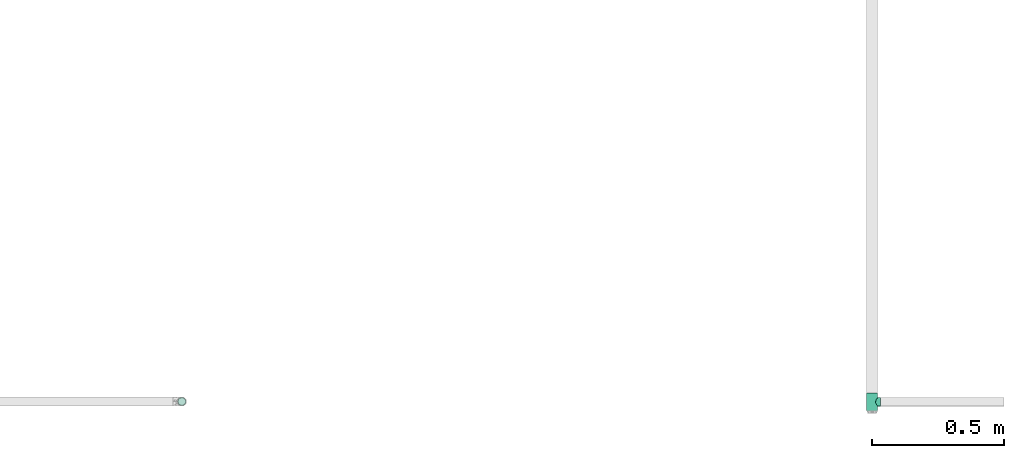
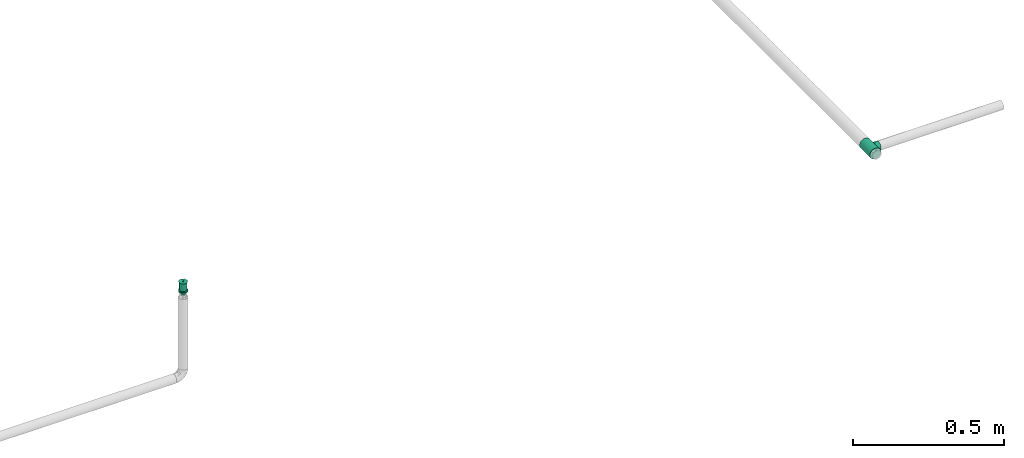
# One storey, part 38 of 63: 1 flow fitting, 1 flow terminal.
"""IFC2X3 building model written with IfcOpenShell, lengths in millimetres."""

from ifc_helpers import new_model, entity, si_unit, converted_unit, derived_unit, direction, frame, origin_with_axes, place, context, subcontext, project, spatial, open_shell, surface_model, source, transform, mapped, type_object, element, save


model = new_model("IFC2X3")

# Units and contexts
model_context = context("Model", 3, precision=0.01, world=frame((0.0, 4.29681676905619e-09, 0.0)), true_north=direction((4.01073788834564e-13, 1.0)))
plan_context = context("Plan", 3, precision=0.01, world=frame((0.0, 4.29681676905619e-09, 0.0)), true_north=direction((4.01073788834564e-13, 1.0)))
body_context = subcontext(model_context, "Body", "Model", "MODEL_VIEW")
ifc_project = project(units=[converted_unit("PLANEANGLEUNIT", "DEGREE", entity("IfcPositiveLengthMeasure", 0.0174532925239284), si_unit("PLANEANGLEUNIT", "RADIAN"), dimensions=[0, 0, 0, 0, 0, 0, 0]), si_unit("AREAUNIT", "SQUARE_METRE"), si_unit("LENGTHUNIT", "METRE", prefix="MILLI"), si_unit("MASSUNIT", "GRAM", prefix="KILO"), si_unit("POWERUNIT", "WATT"), si_unit("PRESSUREUNIT", "PASCAL", prefix="KILO"), si_unit("FORCEUNIT", "NEWTON", prefix="KILO"), si_unit("ELECTRICVOLTAGEUNIT", "VOLT"), si_unit("ELECTRICCURRENTUNIT", "AMPERE"), si_unit("THERMODYNAMICTEMPERATUREUNIT", "DEGREE_CELSIUS"), si_unit("TIMEUNIT", "SECOND"), si_unit("VOLUMEUNIT", "CUBIC_METRE"), derived_unit("LINEARVELOCITYUNIT", [(si_unit("LENGTHUNIT", "METRE"), 1), (si_unit("TIMEUNIT", "SECOND"), -1)]), derived_unit("VOLUMETRICFLOWRATEUNIT", [(si_unit("VOLUMEUNIT", "CUBIC_METRE"), 1), (si_unit("TIMEUNIT", "SECOND"), -1)]), derived_unit("THERMALTRANSMITTANCEUNIT", [(si_unit("POWERUNIT", "WATT"), 1), (si_unit("THERMODYNAMICTEMPERATUREUNIT", "KELVIN"), -1), (si_unit("AREAUNIT", "SQUARE_METRE"), -1)]), derived_unit("SOUNDPRESSUREUNIT", [(si_unit("PRESSUREUNIT", "PASCAL"), 1)])], contexts=[model_context, plan_context])

# Site, building, storey
site_placement = place(None, frame((0.0, -4.29681676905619e-09, 0.0), z_axis=(0.0, 0.0, 1.0), x_axis=(1.0, 0.0, 0.0)))
site = spatial("IfcSite", under=ifc_project, at=site_placement, CompositionType="ELEMENT")
building_placement = place(site_placement, frame((0.0, 4.29681676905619e-09, 0.0), z_axis=(0.0, 0.0, 1.0), x_axis=(1.0, 0.0, 0.0)))
building = spatial("IfcBuilding", under=site, at=building_placement, Name="mc-building", CompositionType="ELEMENT")
storey_placement = place(building_placement, frame((0.0, 0.0, 207370.0), z_axis=(0.0, 0.0, 1.0), x_axis=(1.0, 0.0, 0.0)))
storey = spatial("IfcBuildingStorey", under=building, at=storey_placement, Name="Nivå E", CompositionType="ELEMENT", Elevation=207370.0)

# Flow fitting
pipe_fitting_type = type_object("IfcPipeFittingType", Name="magi_pipe_fe_tee_centric_90_NOR", PredefinedType="JUNCTION")
shared_shape_1 = source(origin_with_axes(), body_context, "Body", "SurfaceModel", [
    surface_model("IfcShellBasedSurfaceModel", [(-33.8, 0.0, -21.2), (-33.8, -5.48696, -20.47763), (-33.8, 5.48696, -20.47763), (-33.8, 10.6, -18.35974), (-33.8, 14.99066, -14.99066), (-33.8, -20.47763, 5.48696), (-33.8, 18.35974, -10.6), (-33.8, 10.6, 18.35974), (-33.8, -14.99066, -14.99066), (-33.8, -18.35974, -10.6), (-33.8, -10.6, -18.35974), (-33.8, -20.47763, -5.48696), (-33.8, -21.2, 0.0), (-33.8, 18.35974, 10.6), (-33.8, 20.47763, -5.48696), (-33.8, 20.47763, 5.48696), (-33.8, 21.2, 0.0), (-33.8, 14.99066, 14.99066), (-33.8, 5.48696, 20.47763), (-33.8, 0.0, 21.2), (-33.8, -18.35974, 10.6), (-33.8, -14.99066, 14.99066), (-33.8, -10.6, 18.35974), (-33.8, -5.48696, 20.47763), (33.8, 5.48696, -20.47763), (33.8, -5.48696, -20.47763), (33.8, 0.0, -21.2), (33.8, 14.99066, -14.99066), (33.8, 10.6, -18.35974), (33.8, 18.35974, -10.6), (33.8, 20.47763, -5.48696), (33.8, -21.2, 0.0), (33.8, -10.6, -18.35974), (33.8, -18.35974, -10.6), (33.8, -14.99066, -14.99066), (33.8, -20.47763, -5.48696), (33.8, -20.47763, 5.48696), (33.8, 21.2, 0.0), (33.8, 20.47763, 5.48696), (33.8, 18.35974, 10.6), (33.8, 10.6, 18.35974), (33.8, 14.99066, 14.99066), (33.8, 0.0, 21.2), (33.8, 5.48696, 20.47763), (33.8, -14.99066, 14.99066), (33.8, -18.35974, 10.6), (33.8, -10.6, 18.35974), (33.8, -5.48696, 20.47763), (16.9, -21.2, 0.0), (15.78624, -20.32327, 6.03364), (12.81343, -18.11115, 11.01935), (8.52479, -15.37862, 14.59239), (3.07939, -13.16482, 16.61708), (-16.9, -21.2, 0.0), (-15.78686, -20.32375, 6.032), (-8.52604, -15.37932, 14.59166), (-3.0848, -13.16609, 16.61608), (-12.81602, -18.11299, 11.01634), (3.07939, -13.16482, -16.61708), (12.81343, -18.11115, -11.01935), (8.52479, -15.37862, -14.59239), (15.78624, -20.32327, -6.03364), (-3.0848, -13.16609, -16.61608), (-8.52604, -15.37932, -14.59166), (-12.81602, -18.11299, -11.01634), (-15.78686, -20.32375, -6.032), (4.37404, -31.8, -16.32415), (-16.9, -31.8, 0.0), (0.0, -31.8, -16.9), (14.63583, -31.8, -8.45), (8.45, -31.8, -14.63583), (16.32415, -31.8, -4.37404), (11.9501, -31.8, -11.9501), (-11.9501, -31.8, -11.9501), (-8.45, -31.8, -14.63583), (-4.37404, -31.8, -16.32415), (-14.63583, -31.8, -8.45), (-16.32415, -31.8, -4.37404), (16.9, -31.8, 0.0), (8.45, -31.8, 14.63583), (16.32415, -31.8, 4.37404), (14.63583, -31.8, 8.45), (-8.45, -31.8, 14.63583), (11.9501, -31.8, 11.9501), (4.37404, -31.8, 16.32415), (-16.32415, -31.8, 4.37404), (-11.9501, -31.8, 11.9501), (-14.63583, -31.8, 8.45), (0.0, -31.8, 16.9), (-4.37404, -31.8, 16.32415), (-16.34343, -20.76188, 3.016), (16.34312, -20.76163, 3.01682), (-0.00271, -13.16546, 16.61658), (16.34312, -20.76163, -3.01682), (-0.00271, -13.16546, -16.61658), (-16.34343, -20.76188, -3.016)], [open_shell([[[0, 1, 2]], [[3, 2, 4]], [[5, 2, 1]], [[4, 2, 6]], [[6, 2, 7]], [[8, 9, 10]], [[1, 10, 9]], [[9, 11, 1]], [[12, 1, 11]], [[5, 1, 12]], [[13, 14, 6]], [[13, 15, 16]], [[6, 7, 13]], [[5, 7, 2]], [[17, 13, 7]], [[18, 7, 19]], [[20, 21, 5]], [[22, 5, 21]], [[23, 19, 22]], [[7, 5, 22]], [[22, 19, 7]], [[16, 14, 13]], [[24, 25, 26]], [[27, 24, 28]], [[29, 30, 24]], [[29, 24, 27]], [[31, 24, 30]], [[32, 33, 34]], [[33, 32, 25]], [[33, 31, 35]], [[31, 33, 25]], [[25, 24, 31]], [[30, 36, 31]], [[37, 38, 39]], [[37, 39, 40]], [[37, 40, 36]], [[40, 39, 41]], [[42, 40, 43]], [[36, 44, 45]], [[44, 36, 46]], [[46, 42, 47]], [[46, 36, 40]], [[40, 42, 46]], [[37, 36, 30]], [[31, 36, 48]], [[49, 48, 36]], [[36, 45, 49]], [[45, 44, 50]], [[51, 50, 44]], [[52, 51, 44]], [[44, 46, 52]], [[45, 50, 49]], [[53, 54, 5]], [[5, 12, 53]], [[54, 20, 5]], [[55, 56, 21]], [[20, 57, 21]], [[57, 20, 54]], [[21, 57, 55]], [[56, 22, 21]], [[52, 22, 56]], [[19, 47, 42]], [[23, 46, 47]], [[18, 42, 43]], [[39, 38, 15]], [[17, 40, 41]], [[13, 41, 39]], [[43, 40, 7]], [[16, 38, 37]], [[22, 46, 23]], [[23, 47, 19]], [[18, 19, 42]], [[43, 7, 18]], [[7, 40, 17]], [[13, 17, 41]], [[15, 13, 39]], [[38, 16, 15]], [[46, 22, 52]], [[6, 30, 29]], [[14, 37, 30]], [[4, 29, 27]], [[26, 25, 1]], [[2, 28, 24]], [[0, 24, 26]], [[27, 28, 3]], [[10, 25, 32]], [[16, 37, 14]], [[14, 30, 6]], [[4, 6, 29]], [[27, 3, 4]], [[3, 28, 2]], [[0, 2, 24]], [[1, 0, 26]], [[25, 10, 1]], [[32, 58, 10]], [[34, 59, 60]], [[59, 34, 33]], [[60, 58, 34]], [[34, 58, 32]], [[35, 31, 48]], [[35, 61, 33]], [[61, 35, 48]], [[33, 61, 59]], [[62, 63, 8]], [[8, 64, 9]], [[64, 8, 63]], [[62, 8, 10]], [[65, 53, 11]], [[65, 11, 9]], [[11, 53, 12]], [[65, 9, 64]], [[58, 62, 10]], [[66, 67, 68]], [[69, 66, 70]], [[69, 71, 66]], [[69, 70, 72]], [[67, 66, 71]], [[68, 73, 74]], [[74, 75, 68]], [[76, 67, 77]], [[73, 68, 76]], [[67, 76, 68]], [[71, 78, 67]], [[79, 78, 80]], [[79, 80, 81]], [[82, 67, 79]], [[79, 81, 83]], [[82, 79, 84]], [[85, 86, 87]], [[86, 85, 82]], [[82, 88, 89]], [[85, 67, 82]], [[84, 88, 82]], [[79, 67, 78]], [[85, 90, 67]], [[57, 87, 86]], [[85, 87, 54]], [[86, 82, 55]], [[85, 54, 90]], [[90, 53, 67]], [[54, 87, 57]], [[91, 49, 80]], [[55, 89, 56]], [[55, 57, 86]], [[88, 52, 92]], [[55, 82, 89]], [[52, 88, 84]], [[79, 51, 84]], [[50, 83, 81]], [[83, 51, 79]], [[81, 80, 49]], [[83, 50, 51]], [[51, 52, 84]], [[78, 91, 80]], [[49, 50, 81]], [[91, 78, 48]], [[88, 56, 89]], [[92, 56, 88]], [[71, 93, 78]], [[59, 69, 72]], [[71, 69, 61]], [[72, 70, 60]], [[93, 48, 78]], [[61, 69, 59]], [[60, 66, 58]], [[60, 59, 72]], [[68, 62, 94]], [[60, 70, 66]], [[95, 67, 53]], [[95, 65, 77]], [[71, 61, 93]], [[75, 62, 68]], [[65, 76, 77]], [[73, 76, 64]], [[68, 58, 66]], [[75, 63, 62]], [[63, 75, 74]], [[74, 73, 63]], [[63, 73, 64]], [[64, 76, 65]], [[67, 95, 77]], [[94, 58, 68]]])]),
])
flow_fitting_placement = place(storey_placement, frame((728641.29045, 434694.40604, 2700.0), z_axis=(0.0, 0.0, -1.0), x_axis=(0.0, -1.0, 0.0)))
element("IfcFlowFitting", 1, at=flow_fitting_placement, inside=storey, type_object=pipe_fitting_type, Name="magi_pipe_fe_tee_centric_90_NOR", context=body_context, shape_type="MappedRepresentation", body=[
    mapped(shared_shape_1, transform((0.0, 0.0, 0.0), scale=1.0)),
])

# Flow terminal
fire_suppression_terminal_type = type_object("IfcFireSuppressionTerminalType", Name="68DGR-STD-STÅENDE", PredefinedType="NOTDEFINED")
shared_shape_2 = source(origin_with_axes(), body_context, "Body", "SurfaceModel", [
    surface_model("IfcShellBasedSurfaceModel", [(3.36465, -12.55704, 51.0), (6.5, -11.25833, 51.0), (9.19239, -9.19239, 51.0), (12.55704, -3.36465, 51.0), (-11.25833, -6.5, 51.0), (11.25833, -6.5, 51.0), (-13.0, 0.0, 51.0), (0.0, -13.0, 51.0), (-6.5, -11.25833, 51.0), (-3.36465, -12.55704, 51.0), (-9.19239, -9.19239, 51.0), (-12.55704, -3.36465, 51.0), (13.0, 0.0, 51.0), (12.55704, 3.36465, 51.0), (11.25833, 6.5, 51.0), (9.19239, 9.19239, 51.0), (6.5, 11.25833, 51.0), (3.36465, 12.55704, 51.0), (0.0, 13.0, 51.0), (-3.36465, 12.55704, 51.0), (-12.55704, 3.36465, 51.0), (-9.19239, 9.19239, 51.0), (-11.25833, 6.5, 51.0), (-6.5, 11.25833, 51.0), (0.0, 13.0, 21.14766), (3.36465, 12.55704, 21.14766), (6.5, 11.25833, 21.14766), (-3.36465, 12.55704, 21.14766), (9.19239, 9.19239, 21.14766), (11.25833, 6.5, 21.14766), (12.55704, 3.36465, 21.14766), (-12.55704, 3.36465, 21.14766), (-11.25833, -6.5, 21.14766), (-9.19239, 9.19239, 21.14766), (-6.5, 11.25833, 21.14766), (-11.25833, 6.5, 21.14766), (-13.0, 0.0, 21.14766), (12.55704, -3.36465, 21.14766), (9.19239, -9.19239, 21.14766), (11.25833, -6.5, 21.14766), (6.5, -11.25833, 21.14766), (3.36465, -12.55704, 21.14766), (-6.5, -11.25833, 21.14766), (-9.19239, -9.19239, 21.14766), (-12.55704, -3.36465, 21.14766), (0.0, -13.0, 21.14766), (-3.36465, -12.55704, 21.14766), (13.0, 0.0, 21.14766), (7.24444, -1.94114, 0.1), (1.94114, -7.24444, 0.1), (3.75, -6.49519, 0.1), (5.3033, -5.3033, 0.1), (-5.3033, -5.3033, 0.1), (6.49519, -3.75, 0.1), (5.3033, 5.3033, 0.1), (0.0, -7.5, 0.1), (-3.75, -6.49519, 0.1), (-1.94114, -7.24444, 0.1), (-7.24444, -1.94114, 0.1), (-6.49519, -3.75, 0.1), (-7.24444, 1.94114, 0.1), (7.5, 0.0, 0.1), (6.49519, 3.75, 0.1), (-6.49519, 3.75, 0.1), (1.94114, 7.24444, 0.1), (0.0, 7.5, 0.1), (3.75, 6.49519, 0.1), (-7.5, 0.0, 0.1), (-5.3033, 5.3033, 0.1), (-1.94114, 7.24444, 0.1), (-3.75, 6.49519, 0.1), (7.24444, 1.94114, 0.1), (1.94114, 7.24444, -0.1), (-6.49519, 3.75, -0.1), (0.0, 7.5, -0.1), (5.3033, 5.3033, -0.1), (3.75, 6.49519, -0.1), (6.49519, 3.75, -0.1), (7.24444, 1.94114, -0.1), (-1.94114, 7.24444, -0.1), (-5.3033, 5.3033, -0.1), (-3.75, 6.49519, -0.1), (-7.24444, 1.94114, -0.1), (-7.24444, -1.94114, -0.1), (-7.5, 0.0, -0.1), (7.5, 0.0, -0.1), (7.24444, -1.94114, -0.1), (-5.3033, -5.3033, -0.1), (1.94114, -7.24444, -0.1), (6.49519, -3.75, -0.1), (5.3033, -5.3033, -0.1), (3.75, -6.49519, -0.1), (-6.49519, -3.75, -0.1), (-3.75, -6.49519, -0.1), (0.0, -7.5, -0.1), (-1.94114, -7.24444, -0.1), (0.0, -2.5, 51.0), (-2.5, 0.0, 51.0), (0.0, 2.5, 51.0), (2.5, 0.0, 51.0), (0.0, -16.0, 53.0), (11.31371, -11.31371, 53.0), (-11.31371, -11.31371, 53.0), (-16.0, 0.0, 53.0), (16.0, 0.0, 53.0), (11.31371, 11.31371, 53.0), (0.0, 16.0, 53.0), (-11.31371, 11.31371, 53.0), (1.25, -2.16506, 57.0), (0.0, -2.5, 57.0), (0.64705, -2.41481, 57.0), (2.41481, -0.64705, 57.0), (1.76777, -1.76777, 57.0), (-2.41481, -0.64705, 57.0), (-2.5, 0.0, 57.0), (2.16506, -1.25, 57.0), (-1.25, -2.16506, 57.0), (-0.64705, -2.41481, 57.0), (-1.76777, -1.76777, 57.0), (-2.16506, -1.25, 57.0), (2.5, 0.0, 57.0), (2.41481, 0.64705, 57.0), (2.16506, 1.25, 57.0), (1.76777, 1.76777, 57.0), (0.64705, 2.41481, 57.0), (1.25, 2.16506, 57.0), (-1.76777, 1.76777, 57.0), (0.0, 2.5, 57.0), (-2.16506, 1.25, 57.0), (-2.41481, 0.64705, 57.0), (-0.64705, 2.41481, 57.0), (-1.25, 2.16506, 57.0), (1.25, 2.16506, 51.0), (1.76777, 1.76777, 51.0), (1.15, 1.99186, 51.0), (0.59528, 2.22163, 51.0), (0.64705, 2.41481, 51.0), (0.0, 2.3, 51.0), (1.62635, 1.62635, 51.0), (2.41481, 0.64705, 51.0), (2.3, 0.0, 51.0), (2.22163, 0.59528, 51.0), (2.16506, 1.25, 51.0), (1.99186, 1.15, 51.0), (-0.59528, 2.22163, 51.0), (-0.64705, 2.41481, 51.0), (-1.15, 1.99186, 51.0), (-1.76777, 1.76777, 51.0), (-1.25, 2.16506, 51.0), (-1.62635, 1.62635, 51.0), (-1.99186, 1.15, 51.0), (-2.16506, 1.25, 51.0), (-2.22163, 0.59528, 51.0), (-2.41481, 0.64705, 51.0), (-2.3, 0.0, 51.0), (2.41481, -0.64705, 51.0), (2.22163, -0.59528, 51.0), (1.99186, -1.15, 51.0), (2.16506, -1.25, 51.0), (1.62635, -1.62635, 51.0), (1.76777, -1.76777, 51.0), (1.25, -2.16506, 51.0), (1.15, -1.99186, 51.0), (0.59528, -2.22163, 51.0), (0.64705, -2.41481, 51.0), (0.0, -2.3, 51.0), (-2.16506, -1.25, 51.0), (-1.99186, -1.15, 51.0), (-1.76777, -1.76777, 51.0), (-1.62635, -1.62635, 51.0), (-2.41481, -0.64705, 51.0), (-2.22163, -0.59528, 51.0), (-0.59528, -2.22163, 51.0), (-0.64705, -2.41481, 51.0), (-1.15, -1.99186, 51.0), (-1.25, -2.16506, 51.0), (1.62635, -1.62635, 56.8), (1.15, -1.99186, 56.8), (0.59528, -2.22163, 56.8), (0.0, -2.3, 56.8), (2.22163, 0.59528, 56.8), (1.99186, -1.15, 56.8), (2.22163, -0.59528, 56.8), (-0.59528, -2.22163, 56.8), (-1.15, -1.99186, 56.8), (-1.62635, -1.62635, 56.8), (-1.99186, -1.15, 56.8), (-2.22163, -0.59528, 56.8), (-1.99186, 1.15, 56.8), (2.3, 0.0, 56.8), (1.62635, 1.62635, 56.8), (1.99186, 1.15, 56.8), (1.15, 1.99186, 56.8), (0.0, 2.3, 56.8), (0.59528, 2.22163, 56.8), (-2.22163, 0.59528, 56.8), (-2.3, 0.0, 56.8), (-1.15, 1.99186, 56.8), (-0.59528, 2.22163, 56.8), (-1.62635, 1.62635, 56.8), (4.1411, -15.45481, 19.0), (8.0, -13.85641, 19.0), (11.31371, -11.31371, 19.0), (-8.0, -13.85641, 19.0), (15.45481, -4.1411, 19.0), (16.0, 0.0, 19.0), (13.85641, -8.0, 19.0), (0.0, -16.0, 19.0), (-4.1411, -15.45481, 19.0), (-13.85641, -8.0, 19.0), (-11.31371, -11.31371, 19.0), (-15.45481, -4.1411, 19.0), (15.45481, 4.1411, 19.0), (13.85641, 8.0, 19.0), (11.31371, 11.31371, 19.0), (-4.1411, 15.45481, 19.0), (8.0, 13.85641, 19.0), (4.1411, 15.45481, 19.0), (0.0, 16.0, 19.0), (-13.85641, 8.0, 19.0), (-15.45481, 4.1411, 19.0), (-16.0, 0.0, 19.0), (-11.31371, 11.31371, 19.0), (-8.0, 13.85641, 19.0), (0.0, 16.0, 13.0), (4.1411, 15.45481, 13.0), (8.0, 13.85641, 13.0), (-4.1411, 15.45481, 13.0), (11.31371, 11.31371, 13.0), (13.85641, 8.0, 13.0), (15.45481, 4.1411, 13.0), (-15.45481, -4.1411, 13.0), (-11.31371, 11.31371, 13.0), (-8.0, 13.85641, 13.0), (-13.85641, 8.0, 13.0), (-15.45481, 4.1411, 13.0), (-16.0, 0.0, 13.0), (4.1411, -15.45481, 13.0), (16.0, 0.0, 13.0), (15.45481, -4.1411, 13.0), (13.85641, -8.0, 13.0), (11.31371, -11.31371, 13.0), (8.0, -13.85641, 13.0), (-8.0, -13.85641, 13.0), (-13.85641, -8.0, 13.0), (-11.31371, -11.31371, 13.0), (0.0, -16.0, 13.0), (-4.1411, -15.45481, 13.0), (7.24444, -1.94114, 13.0), (1.94114, -7.24444, 13.0), (3.75, -6.49519, 13.0), (5.3033, -5.3033, 13.0), (-5.3033, -5.3033, 13.0), (6.49519, -3.75, 13.0), (5.3033, 5.3033, 13.0), (0.0, -7.5, 13.0), (-3.75, -6.49519, 13.0), (-1.94114, -7.24444, 13.0), (-7.24444, -1.94114, 13.0), (-6.49519, -3.75, 13.0), (-7.24444, 1.94114, 13.0), (7.5, 0.0, 13.0), (6.49519, 3.75, 13.0), (-6.49519, 3.75, 13.0), (1.94114, 7.24444, 13.0), (0.0, 7.5, 13.0), (3.75, 6.49519, 13.0), (-7.5, 0.0, 13.0), (-5.3033, 5.3033, 13.0), (-1.94114, 7.24444, 13.0), (-3.75, 6.49519, 13.0), (7.24444, 1.94114, 13.0), (3.75, 6.49519, 0.0), (5.3033, 5.3033, 0.0), (3.65, 6.32199, 0.0), (1.88938, 7.05126, 0.0), (0.0, 7.3, 0.0), (1.94114, 7.24444, 0.0), (0.0, 7.5, 0.0), (5.16188, 5.16188, 0.0), (7.24444, 1.94114, 0.0), (7.3, 0.0, 0.0), (7.05126, 1.88938, 0.0), (7.5, 0.0, 0.0), (6.49519, 3.75, 0.0), (6.32199, 3.65, 0.0), (-1.88938, 7.05126, 0.0), (-1.94114, 7.24444, 0.0), (-3.65, 6.32199, 0.0), (-5.3033, 5.3033, 0.0), (-3.75, 6.49519, 0.0), (-5.16188, 5.16188, 0.0), (-6.32199, 3.65, 0.0), (-6.49519, 3.75, 0.0), (-7.05126, 1.88938, 0.0), (-7.24444, 1.94114, 0.0), (-7.3, 0.0, 0.0), (-7.5, 0.0, 0.0), (7.24444, -1.94114, 0.0), (7.05126, -1.88938, 0.0), (6.32199, -3.65, 0.0), (6.49519, -3.75, 0.0), (5.16188, -5.16188, 0.0), (5.3033, -5.3033, 0.0), (3.75, -6.49519, 0.0), (3.65, -6.32199, 0.0), (1.88938, -7.05126, 0.0), (1.94114, -7.24444, 0.0), (0.0, -7.3, 0.0), (0.0, -7.5, 0.0), (-6.49519, -3.75, 0.0), (-6.32199, -3.65, 0.0), (-5.3033, -5.3033, 0.0), (-5.16188, -5.16188, 0.0), (-7.24444, -1.94114, 0.0), (-7.05126, -1.88938, 0.0), (-1.88938, -7.05126, 0.0), (-1.94114, -7.24444, 0.0), (-3.65, -6.32199, 0.0), (-3.75, -6.49519, 0.0), (1.88938, -7.05126, 12.8), (0.0, -7.3, 12.8), (3.65, -6.32199, 12.8), (5.16188, -5.16188, 12.8), (6.32199, -3.65, 12.8), (7.05126, 1.88938, 12.8), (7.05126, -1.88938, 12.8), (-5.16188, -5.16188, 12.8), (-1.88938, -7.05126, 12.8), (-3.65, -6.32199, 12.8), (-6.32199, -3.65, 12.8), (-7.05126, -1.88938, 12.8), (0.0, 7.3, 12.8), (7.3, 0.0, 12.8), (6.32199, 3.65, 12.8), (5.16188, 5.16188, 12.8), (3.65, 6.32199, 12.8), (1.88938, 7.05126, 12.8), (-6.32199, 3.65, 12.8), (-7.05126, 1.88938, 12.8), (-7.3, 0.0, 12.8), (-3.65, 6.32199, 12.8), (-1.88938, 7.05126, 12.8), (-5.16188, 5.16188, 12.8)], [open_shell([[[0, 1, 2]], [[0, 2, 3]], [[0, 3, 4]], [[3, 2, 5]], [[6, 4, 3]], [[7, 8, 9]], [[7, 0, 8]], [[8, 4, 10]], [[0, 4, 8]], [[4, 6, 11]], [[6, 3, 12]], [[13, 14, 15]], [[6, 13, 15]], [[16, 17, 18]], [[15, 16, 19]], [[18, 19, 16]], [[20, 21, 22]], [[20, 6, 15]], [[21, 19, 23]], [[19, 21, 20]], [[15, 19, 20]], [[13, 6, 12]], [[24, 25, 26]], [[27, 24, 26]], [[28, 29, 30]], [[26, 28, 31]], [[28, 32, 31]], [[27, 33, 34]], [[33, 27, 31]], [[33, 31, 35]], [[27, 26, 31]], [[31, 32, 36]], [[32, 28, 30]], [[32, 30, 37]], [[38, 37, 39]], [[38, 40, 41]], [[38, 41, 37]], [[32, 37, 41]], [[32, 42, 43]], [[44, 36, 32]], [[42, 45, 46]], [[42, 32, 41]], [[45, 42, 41]], [[30, 47, 37]], [[4, 32, 43]], [[8, 42, 46]], [[43, 42, 10]], [[9, 46, 45]], [[36, 11, 6]], [[11, 36, 44]], [[11, 44, 4]], [[44, 32, 4]], [[43, 10, 4]], [[8, 10, 42]], [[46, 9, 8]], [[45, 7, 9]], [[0, 41, 40]], [[38, 1, 40]], [[5, 39, 37]], [[38, 39, 2]], [[3, 37, 47]], [[41, 0, 7]], [[40, 1, 0]], [[38, 2, 1]], [[39, 5, 2]], [[3, 5, 37]], [[47, 12, 3]], [[41, 7, 45]], [[30, 13, 47]], [[29, 14, 30]], [[25, 24, 17]], [[15, 29, 28]], [[30, 14, 13]], [[13, 12, 47]], [[16, 26, 17]], [[16, 15, 28]], [[26, 25, 17]], [[15, 14, 29]], [[28, 26, 16]], [[24, 18, 17]], [[19, 27, 34]], [[33, 23, 34]], [[22, 35, 31]], [[33, 35, 21]], [[20, 31, 36]], [[27, 19, 18]], [[34, 23, 19]], [[33, 21, 23]], [[35, 22, 21]], [[20, 22, 31]], [[36, 6, 20]], [[27, 18, 24]], [[48, 49, 50]], [[48, 50, 51]], [[49, 48, 52]], [[48, 51, 53]], [[54, 52, 48]], [[55, 56, 57]], [[56, 55, 52]], [[52, 58, 59]], [[52, 55, 49]], [[52, 60, 58]], [[54, 48, 61]], [[62, 54, 61]], [[54, 63, 52]], [[64, 65, 54]], [[64, 54, 66]], [[63, 54, 65]], [[63, 60, 52]], [[67, 58, 60]], [[68, 69, 70]], [[69, 68, 63]], [[69, 63, 65]], [[71, 62, 61]], [[72, 73, 74]], [[75, 72, 76]], [[75, 77, 78]], [[72, 75, 73]], [[78, 73, 75]], [[79, 80, 81]], [[80, 79, 73]], [[74, 73, 79]], [[78, 82, 73]], [[82, 83, 84]], [[82, 78, 85]], [[86, 87, 85]], [[88, 86, 89]], [[90, 91, 88]], [[90, 88, 89]], [[87, 86, 88]], [[83, 87, 92]], [[83, 85, 87]], [[93, 94, 95]], [[94, 93, 87]], [[88, 94, 87]], [[85, 83, 82]], [[83, 58, 84]], [[92, 59, 83]], [[56, 87, 93]], [[92, 87, 52]], [[57, 93, 95]], [[83, 59, 58]], [[58, 67, 84]], [[57, 56, 93]], [[52, 87, 56]], [[52, 59, 92]], [[55, 57, 95]], [[95, 94, 55]], [[88, 49, 94]], [[91, 50, 88]], [[53, 90, 89]], [[91, 90, 51]], [[48, 89, 86]], [[91, 51, 50]], [[50, 49, 88]], [[61, 48, 86]], [[53, 89, 48]], [[53, 51, 90]], [[85, 61, 86]], [[94, 49, 55]], [[78, 71, 85]], [[77, 62, 78]], [[66, 75, 76]], [[77, 75, 54]], [[64, 76, 72]], [[78, 62, 71]], [[71, 61, 85]], [[64, 66, 76]], [[54, 75, 66]], [[54, 62, 77]], [[65, 64, 72]], [[72, 74, 65]], [[79, 69, 74]], [[81, 70, 79]], [[63, 80, 73]], [[81, 80, 68]], [[60, 73, 82]], [[81, 68, 70]], [[70, 69, 79]], [[67, 60, 82]], [[63, 73, 60]], [[63, 68, 80]], [[84, 67, 82]], [[74, 69, 65]], [[96, 97, 98]], [[98, 99, 96]], [[100, 101, 102]], [[103, 102, 101]], [[101, 104, 103]], [[104, 105, 106]], [[107, 103, 106]], [[106, 103, 104]], [[99, 98, 105]], [[105, 104, 99]], [[98, 106, 105]], [[98, 107, 106]], [[107, 98, 97]], [[103, 107, 97]], [[97, 96, 102]], [[102, 103, 97]], [[96, 100, 102]], [[96, 101, 100]], [[101, 96, 99]], [[104, 101, 99]], [[108, 109, 110]], [[111, 108, 112]], [[113, 108, 114]], [[111, 112, 115]], [[108, 111, 114]], [[109, 116, 117]], [[116, 109, 118]], [[118, 113, 119]], [[118, 109, 108]], [[108, 113, 118]], [[111, 120, 114]], [[121, 122, 123]], [[114, 121, 123]], [[114, 123, 124]], [[124, 123, 125]], [[126, 124, 127]], [[124, 128, 129]], [[129, 114, 124]], [[126, 130, 131]], [[128, 124, 126]], [[130, 126, 127]], [[121, 114, 120]], [[132, 133, 134]], [[132, 134, 135]], [[136, 135, 137]], [[135, 136, 132]], [[136, 137, 98]], [[134, 133, 138]], [[139, 140, 141]], [[140, 139, 99]], [[139, 141, 142]], [[138, 142, 143]], [[142, 138, 133]], [[143, 142, 141]], [[98, 144, 145]], [[98, 137, 144]], [[145, 144, 146]], [[147, 148, 149]], [[146, 148, 145]], [[149, 148, 146]], [[150, 151, 147]], [[151, 150, 152]], [[150, 147, 149]], [[153, 152, 154]], [[152, 153, 151]], [[153, 154, 97]], [[99, 155, 156]], [[156, 155, 157]], [[157, 158, 159]], [[158, 157, 155]], [[159, 158, 160]], [[160, 161, 162]], [[162, 161, 163]], [[163, 164, 165]], [[164, 163, 161]], [[165, 164, 96]], [[162, 159, 160]], [[166, 167, 168]], [[168, 167, 169]], [[167, 166, 170]], [[97, 171, 170]], [[170, 171, 167]], [[97, 154, 171]], [[172, 96, 173]], [[172, 173, 174]], [[169, 175, 168]], [[175, 169, 174]], [[175, 174, 173]], [[165, 96, 172]], [[156, 140, 99]], [[170, 113, 97]], [[166, 119, 170]], [[116, 168, 175]], [[166, 168, 118]], [[117, 175, 173]], [[170, 119, 113]], [[113, 114, 97]], [[117, 116, 175]], [[118, 168, 116]], [[118, 119, 166]], [[109, 117, 173]], [[173, 96, 109]], [[164, 110, 96]], [[161, 108, 164]], [[115, 160, 158]], [[161, 160, 112]], [[111, 158, 155]], [[161, 112, 108]], [[108, 110, 164]], [[120, 111, 155]], [[115, 158, 111]], [[115, 112, 160]], [[99, 120, 155]], [[96, 110, 109]], [[139, 121, 99]], [[142, 122, 139]], [[125, 133, 132]], [[142, 133, 123]], [[124, 132, 136]], [[139, 122, 121]], [[121, 120, 99]], [[124, 125, 132]], [[123, 133, 125]], [[123, 122, 142]], [[127, 124, 136]], [[136, 98, 127]], [[145, 130, 98]], [[148, 131, 145]], [[128, 147, 151]], [[148, 147, 126]], [[129, 151, 153]], [[148, 126, 131]], [[131, 130, 145]], [[114, 129, 153]], [[128, 151, 129]], [[128, 126, 147]], [[97, 114, 153]], [[98, 130, 127]], [[176, 177, 178]], [[176, 178, 179]], [[180, 176, 179]], [[181, 176, 182]], [[180, 182, 176]], [[183, 184, 179]], [[185, 179, 184]], [[186, 187, 185]], [[185, 187, 188]], [[179, 185, 188]], [[189, 182, 180]], [[190, 191, 180]], [[192, 190, 180]], [[193, 194, 192]], [[180, 193, 192]], [[188, 193, 180]], [[195, 188, 196]], [[196, 188, 187]], [[197, 198, 199]], [[188, 199, 198]], [[188, 198, 193]], [[180, 179, 188]], [[154, 187, 171]], [[171, 186, 167]], [[174, 169, 184]], [[185, 169, 167]], [[172, 174, 183]], [[187, 186, 171]], [[154, 196, 187]], [[174, 184, 183]], [[184, 169, 185]], [[167, 186, 185]], [[172, 183, 179]], [[179, 165, 172]], [[165, 178, 163]], [[163, 177, 162]], [[157, 159, 181]], [[176, 159, 162]], [[156, 157, 182]], [[177, 176, 162]], [[163, 178, 177]], [[156, 182, 189]], [[182, 157, 181]], [[159, 176, 181]], [[156, 189, 140]], [[179, 178, 165]], [[140, 180, 141]], [[141, 191, 143]], [[134, 138, 192]], [[190, 138, 143]], [[135, 134, 194]], [[180, 191, 141]], [[140, 189, 180]], [[134, 192, 194]], [[192, 138, 190]], [[143, 191, 190]], [[135, 194, 193]], [[193, 137, 135]], [[137, 198, 144]], [[144, 197, 146]], [[150, 149, 188]], [[199, 149, 146]], [[152, 150, 195]], [[197, 199, 146]], [[144, 198, 197]], [[152, 195, 196]], [[195, 150, 188]], [[149, 199, 188]], [[152, 196, 154]], [[193, 198, 137]], [[200, 201, 202]], [[203, 200, 202]], [[204, 205, 202]], [[204, 202, 206]], [[203, 202, 205]], [[207, 203, 208]], [[207, 200, 203]], [[203, 209, 210]], [[209, 203, 211]], [[205, 211, 203]], [[205, 212, 211]], [[212, 213, 214]], [[215, 212, 214]], [[216, 217, 218]], [[214, 216, 215]], [[218, 215, 216]], [[211, 219, 220]], [[221, 211, 220]], [[222, 215, 223]], [[215, 222, 219]], [[219, 211, 215]], [[211, 212, 215]], [[224, 225, 226]], [[227, 224, 226]], [[228, 229, 230]], [[227, 226, 228]], [[227, 228, 231]], [[227, 232, 233]], [[232, 227, 234]], [[234, 231, 235]], [[231, 234, 227]], [[235, 231, 236]], [[228, 230, 231]], [[237, 238, 239]], [[237, 239, 240]], [[241, 242, 237]], [[241, 237, 240]], [[238, 237, 243]], [[244, 243, 245]], [[243, 244, 231]], [[243, 246, 247]], [[243, 231, 238]], [[237, 246, 243]], [[238, 231, 230]], [[231, 211, 236]], [[244, 209, 231]], [[203, 245, 243]], [[244, 245, 210]], [[208, 243, 247]], [[231, 209, 211]], [[211, 221, 236]], [[208, 203, 243]], [[210, 245, 203]], [[210, 209, 244]], [[207, 208, 247]], [[247, 246, 207]], [[237, 200, 246]], [[242, 201, 237]], [[206, 241, 240]], [[242, 241, 202]], [[204, 240, 239]], [[242, 202, 201]], [[201, 200, 237]], [[205, 204, 239]], [[206, 240, 204]], [[206, 202, 241]], [[238, 205, 239]], [[246, 200, 207]], [[230, 212, 238]], [[229, 213, 230]], [[216, 228, 226]], [[229, 228, 214]], [[217, 226, 225]], [[230, 213, 212]], [[212, 205, 238]], [[217, 216, 226]], [[214, 228, 216]], [[214, 213, 229]], [[218, 217, 225]], [[225, 224, 218]], [[227, 215, 224]], [[233, 223, 227]], [[219, 232, 234]], [[233, 232, 222]], [[220, 234, 235]], [[233, 222, 223]], [[223, 215, 227]], [[221, 220, 235]], [[219, 234, 220]], [[219, 222, 232]], [[236, 221, 235]], [[224, 215, 218]], [[248, 249, 250]], [[248, 250, 251]], [[249, 248, 252]], [[248, 251, 253]], [[254, 252, 248]], [[255, 256, 257]], [[256, 255, 252]], [[252, 258, 259]], [[252, 255, 249]], [[252, 260, 258]], [[254, 248, 261]], [[262, 254, 261]], [[254, 263, 252]], [[264, 265, 254]], [[264, 254, 266]], [[263, 254, 265]], [[263, 260, 252]], [[267, 258, 260]], [[268, 269, 270]], [[269, 268, 263]], [[269, 263, 265]], [[271, 262, 261]], [[272, 273, 274]], [[272, 274, 275]], [[276, 277, 275]], [[277, 276, 278]], [[275, 277, 272]], [[274, 273, 279]], [[280, 281, 282]], [[281, 280, 283]], [[280, 282, 284]], [[279, 284, 285]], [[284, 279, 273]], [[285, 284, 282]], [[278, 286, 287]], [[287, 286, 288]], [[289, 290, 291]], [[288, 290, 287]], [[288, 291, 290]], [[278, 276, 286]], [[292, 293, 289]], [[293, 292, 294]], [[292, 289, 291]], [[295, 294, 296]], [[294, 295, 293]], [[295, 296, 297]], [[283, 298, 299]], [[299, 298, 300]], [[300, 301, 302]], [[301, 300, 298]], [[302, 301, 303]], [[303, 304, 305]], [[305, 304, 306]], [[306, 307, 308]], [[307, 306, 304]], [[308, 307, 309]], [[305, 302, 303]], [[310, 311, 312]], [[312, 311, 313]], [[311, 310, 314]], [[297, 315, 314]], [[314, 315, 311]], [[297, 296, 315]], [[316, 309, 317]], [[316, 317, 318]], [[313, 319, 312]], [[313, 318, 319]], [[319, 318, 317]], [[308, 309, 316]], [[299, 281, 283]], [[314, 258, 297]], [[310, 259, 314]], [[256, 312, 319]], [[310, 312, 252]], [[257, 319, 317]], [[314, 259, 258]], [[258, 267, 297]], [[257, 256, 319]], [[252, 312, 256]], [[252, 259, 310]], [[255, 257, 317]], [[317, 309, 255]], [[307, 249, 309]], [[304, 250, 307]], [[253, 303, 301]], [[304, 303, 251]], [[248, 301, 298]], [[304, 251, 250]], [[250, 249, 307]], [[261, 248, 298]], [[253, 301, 248]], [[253, 251, 303]], [[283, 261, 298]], [[309, 249, 255]], [[280, 271, 283]], [[284, 262, 280]], [[266, 273, 272]], [[284, 273, 254]], [[264, 272, 277]], [[280, 262, 271]], [[271, 261, 283]], [[264, 266, 272]], [[254, 273, 266]], [[254, 262, 284]], [[265, 264, 277]], [[277, 278, 265]], [[287, 269, 278]], [[290, 270, 287]], [[263, 289, 293]], [[290, 289, 268]], [[260, 293, 295]], [[290, 268, 270]], [[270, 269, 287]], [[267, 260, 295]], [[263, 293, 260]], [[263, 268, 289]], [[297, 267, 295]], [[278, 269, 265]], [[320, 321, 322]], [[323, 322, 324]], [[325, 326, 322]], [[324, 322, 326]], [[322, 327, 325]], [[328, 329, 321]], [[327, 321, 329]], [[330, 331, 327]], [[322, 321, 327]], [[331, 332, 327]], [[326, 325, 333]], [[334, 325, 332]], [[335, 334, 336]], [[332, 337, 336]], [[334, 332, 336]], [[331, 338, 332]], [[339, 338, 340]], [[340, 338, 331]], [[341, 342, 343]], [[332, 338, 343]], [[332, 343, 342]], [[332, 325, 327]], [[296, 331, 315]], [[315, 330, 311]], [[318, 313, 329]], [[327, 313, 311]], [[316, 318, 328]], [[331, 330, 315]], [[296, 340, 331]], [[318, 329, 328]], [[329, 313, 327]], [[311, 330, 327]], [[316, 328, 321]], [[321, 308, 316]], [[308, 320, 306]], [[306, 322, 305]], [[300, 302, 324]], [[323, 302, 305]], [[299, 300, 326]], [[322, 323, 305]], [[306, 320, 322]], [[299, 326, 333]], [[326, 300, 324]], [[302, 323, 324]], [[299, 333, 281]], [[321, 320, 308]], [[281, 325, 282]], [[282, 334, 285]], [[274, 279, 336]], [[335, 279, 285]], [[275, 274, 337]], [[325, 334, 282]], [[281, 333, 325]], [[274, 336, 337]], [[336, 279, 335]], [[285, 334, 335]], [[275, 337, 332]], [[332, 276, 275]], [[276, 342, 286]], [[286, 341, 288]], [[292, 291, 338]], [[343, 291, 288]], [[294, 292, 339]], [[341, 343, 288]], [[286, 342, 341]], [[294, 339, 340]], [[339, 292, 338]], [[291, 343, 338]], [[294, 340, 296]], [[332, 342, 276]]])]),
])
flow_terminal_placement = place(storey_placement, frame((726016.69316, 434695.91689, 3027.71994000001), z_axis=(0.0, 0.0, 1.0), x_axis=(1.0, 0.0, 0.0)))
element("IfcFlowTerminal", 2, at=flow_terminal_placement, inside=storey, type_object=fire_suppression_terminal_type, Name="68DGR-STD-STÅENDE", context=body_context, shape_type="MappedRepresentation", body=[
    mapped(shared_shape_2, transform((0.0, 0.0, 0.0), scale=1.0)),
])

save(model, "model.ifc")
